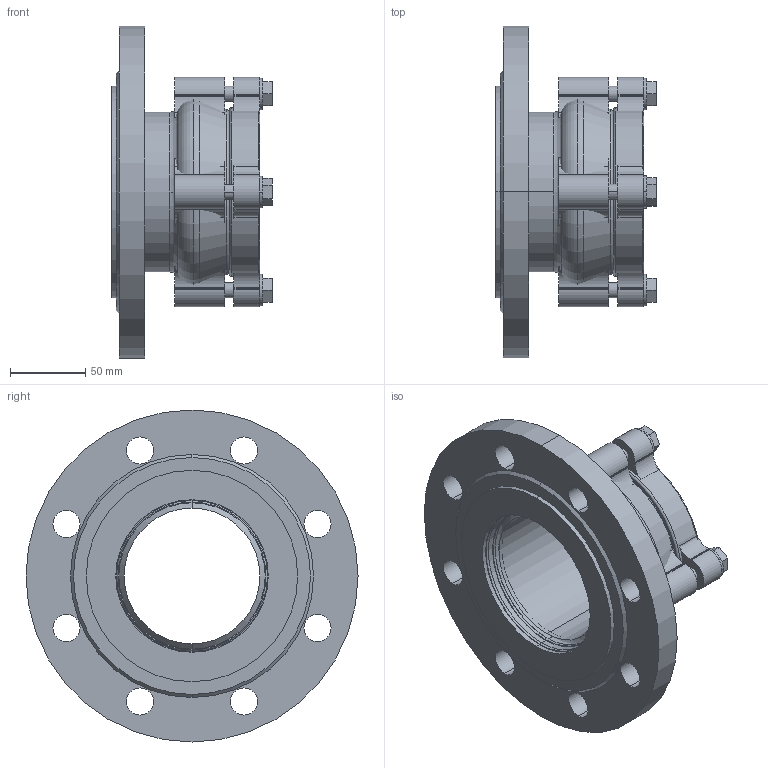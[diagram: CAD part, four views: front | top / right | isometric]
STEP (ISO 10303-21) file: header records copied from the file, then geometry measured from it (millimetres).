
FILE_DESCRIPTION(('STEP AP214'),'1');
FILE_NAME('U:/VDI-Daten/7200-(0400)/7200_PN16_DN100_90.STP','2012-06-15T09:26:35',(' '),(' '),'Spatial InterOp 3D',' ',' ');
FILE_SCHEMA(('automotive_design'));
Length unit declared in the file: millimetre
Products named in the file (26): 3D-Objekt
Bounding box: 106.4 x 220 x 220 mm (x, y, z)
Volume: 959996.6 mm3; surface area: 282534.2 mm2
Topology: 26 solids, 26 shells, 230 faces, 530 edges, 352 vertices
Faces by surface type: cylinder 120, plane 92, torus 12, cone 6
Entity records: 9142 total; most frequent: DIRECTION 1326, CARTESIAN_POINT 1138, ORIENTED_EDGE 1060, AXIS2_PLACEMENT_3D 540, EDGE_CURVE 530, VERTEX_POINT 352, CIRCLE 284, EDGE_LOOP 258
